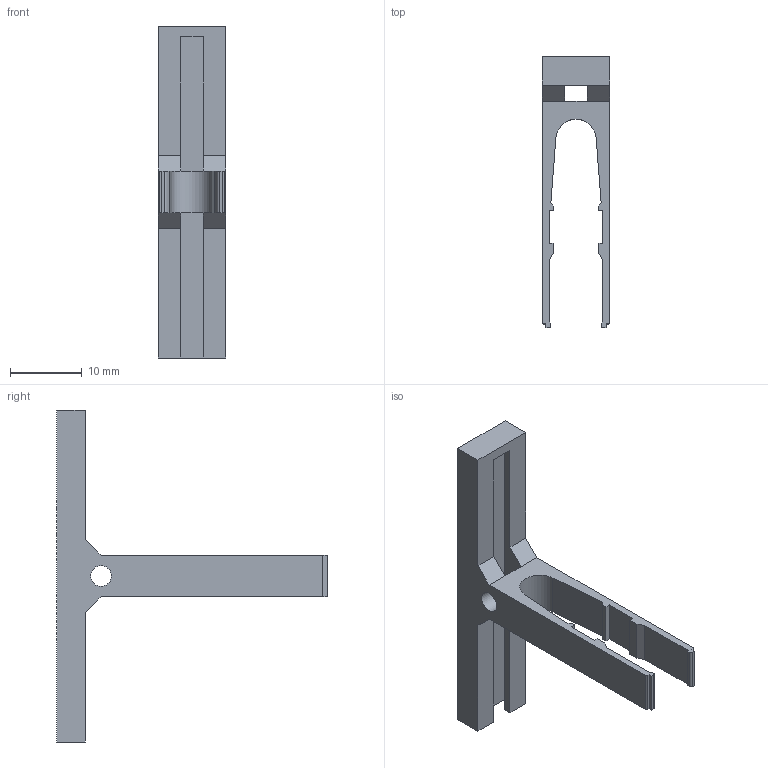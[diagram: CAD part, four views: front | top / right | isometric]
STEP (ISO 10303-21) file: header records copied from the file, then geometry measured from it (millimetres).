
FILE_DESCRIPTION(/* description */ (''),/* implementation_level */ '2;1');
FILE_NAME(/* name */ 'KLM-A.stp',/* time_stamp */ '2023-02-16T11:12:19+08:00',/* author */ (''),/* organization */ (''),/* preprocessor_version */ 'ST-DEVELOPER v16.7',/* originating_system */ 'SIEMENS PLM Software NX 12.0',/* authorisation */ '');
FILE_SCHEMA (('AP203_CONFIGURATION_CONTROLLED_3D_DESIGN_OF_MECHANICAL_PARTS_AND_ASSEMBLIES_MIM_LF { 1 0 10303 403 2 1 2}'));
Length unit declared in the file: millimetre
Products named in the file (1): Admi348C08DB5fp2
Bounding box: 9.4 x 37.7 x 46.2 mm (x, y, z)
Volume: 1660.2 mm3; surface area: 2998 mm2
Topology: 1 solids, 1 shells, 60 faces, 183 edges, 121 vertices
Faces by surface type: plane 54, cylinder 6
Full cylindrical faces by diameter (mm): 2.9 x1
Entity records: 2094 total; most frequent: CARTESIAN_POINT 357, ORIENTED_EDGE 356, DIRECTION 314, EDGE_CURVE 178, LINE 164, VECTOR 164, VERTEX_POINT 118, AXIS2_PLACEMENT_3D 75
